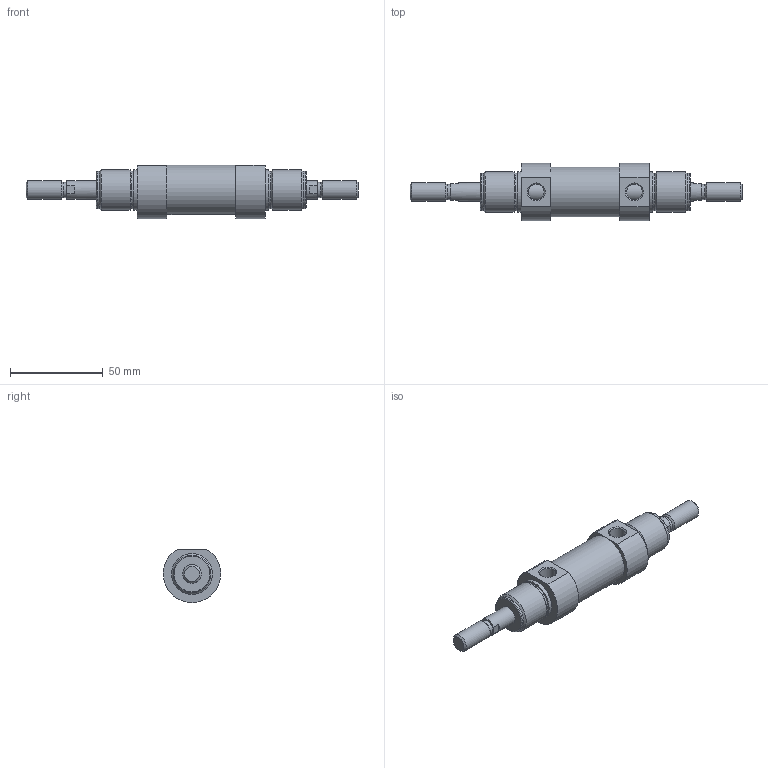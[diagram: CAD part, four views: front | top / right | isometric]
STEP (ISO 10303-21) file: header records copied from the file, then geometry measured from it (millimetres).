
FILE_DESCRIPTION(/* description */ (''),/* implementation_level */ '2;1');
FILE_NAME(/* name */ '\\UNIVER\Disegni in Archivio 2\CATALOGO STEP_Sito\MODELLI CILINDRI M\3D STEP\M101_M201\dia. 25\M101-25-0000.stp',/* time_stamp */ '2014-02-04T10:29:05+01:00',/* author */ ('Boceda'),/* organization */ (''),/* preprocessor_version */ 'ST-DEVELOPER v15.2',/* originating_system */ 'Autodesk Inventor 2014',/* authorisation */ '');
FILE_SCHEMA (('AUTOMOTIVE_DESIGN { 1 0 10303 214 3 1 1 }'));
Length unit declared in the file: centimetre
Products named in the file (1): M101-25-0000
Bounding box: 179 x 31 x 28.79 mm (x, y, z)
Volume: 64202.2 mm3; surface area: 13648.5 mm2
Topology: 1 solids, 1 shells, 57 faces, 111 edges, 66 vertices
Faces by surface type: plane 24, cylinder 21, cone 10, torus 2
Full cylindrical faces by diameter (mm): 8.16 x2, 8.566 x2, 10 x4, 20.16 x4, 22 x4, 26.6 x1
Entity records: 1381 total; most frequent: CARTESIAN_POINT 286, DIRECTION 244, ORIENTED_EDGE 160, AXIS2_PLACEMENT_3D 108, EDGE_LOOP 96, EDGE_CURVE 80, VERTEX_POINT 64, FACE_OUTER_BOUND 57
